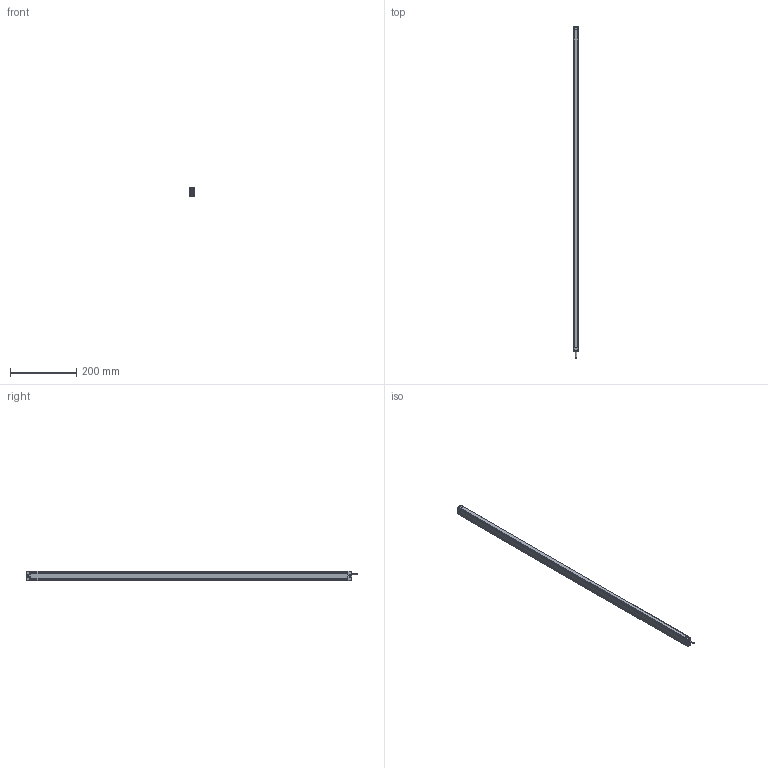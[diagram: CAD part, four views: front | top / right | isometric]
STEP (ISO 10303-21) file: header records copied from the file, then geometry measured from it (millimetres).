
FILE_DESCRIPTION((''),'2;1');
FILE_NAME('EB13-0320_ASM','2021-07-16T09:32:40',('18720616900'),(''),'CREO PARAMETRIC BY PTC INC, 2019010','CREO PARAMETRIC BY PTC INC, 2019010','');
FILE_SCHEMA(('CONFIG_CONTROL_DESIGN'));
Products named in the file (7): EB1300; 000; 0002; 0004; EB13-0320_ASM
Assembly tree (9 placements, depth 2):
  EB13-0320_ASM
    EB1300
    000
    0002
    000
    0004  x4
    000
Bounding box: 13 x 1002.4 x 28 mm (x, y, z)
Surface area: 127560.6 mm2
Topology: 9 solids, 27 shells, 1032 faces, 3520 edges, 2523 vertices
Faces by surface type: cylinder 544, plane 295, bspline 118, torus 40, sphere 31, cone 4
Entity records: 52594 total; most frequent: CARTESIAN_POINT 37957, ORIENTED_EDGE 3370, DIRECTION 2501, EDGE_CURVE 1685, VERTEX_POINT 1150, AXIS2_PLACEMENT_3D 849, VECTOR 803, LINE 803
